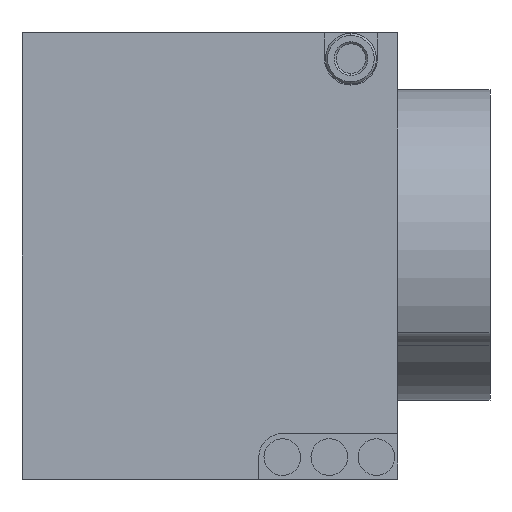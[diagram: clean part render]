
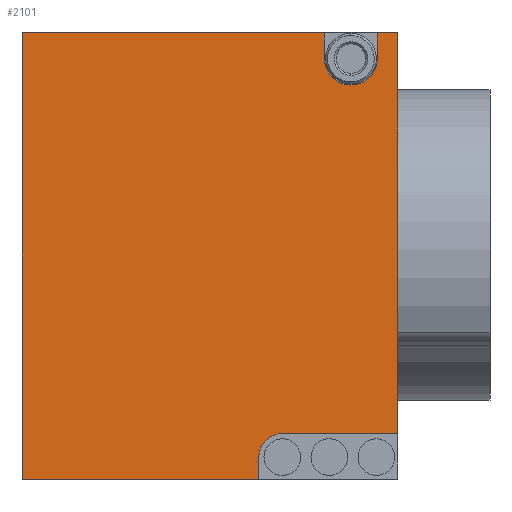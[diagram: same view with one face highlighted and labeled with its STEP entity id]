
A CAD part, left-side view. The second image highlights one B-rep face of the part: STEP entity #2101.
In plain terms, the highlighted planar face has unit normal (-1, 0, 0).
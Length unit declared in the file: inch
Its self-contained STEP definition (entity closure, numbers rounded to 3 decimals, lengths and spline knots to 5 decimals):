
#21 = VECTOR ( 'NONE', #6455, 39.37008 ) ;
#28 = EDGE_CURVE ( 'Defeatured_0_15+Defeatured_0_17+Defeatured_0_19+Defeatured_0_23', #1665, #5313, #79, .T. ) ;
#34 = EDGE_CURVE ( 'Defeatured_0_15+Defeatured_0_20+Defeatured_0_26+Defeatured_0_18', #571, #5899, #2781, .T. ) ;
#79 = LINE ( 'NONE', #1553, #5764 ) ;
#254 = DIRECTION ( 'NONE',  ( 0., -1., 0. ) ) ;
#466 = ORIENTED_EDGE ( 'NONE', *, *, #509, .F. ) ;
#486 = VERTEX_POINT ( 'NONE', #3553 ) ;
#507 = EDGE_CURVE ( 'Defeatured_0_23+Defeatured_0_15+Defeatured_0_25+Defeatured_0_17', #1852, #5313, #1189, .T. ) ;
#509 = EDGE_CURVE ( 'Defeatured_0_28+Defeatured_0_15+Defeatured_0_29+Defeatured_0_18', #6198, #1234, #1997, .T. ) ;
#571 = VERTEX_POINT ( 'NONE', #1167 ) ;
#576 = VECTOR ( 'NONE', #254, 39.37008 ) ;
#813 = VECTOR ( 'NONE', #6149, 39.37008 ) ;
#851 = ORIENTED_EDGE ( 'NONE', *, *, #4844, .F. ) ;
#1020 = ORIENTED_EDGE ( 'NONE', *, *, #6112, .F. ) ;
#1045 = CARTESIAN_POINT ( 'NONE',  ( -3.32357, -0.69786, -2.14 ) ) ;
#1131 = CARTESIAN_POINT ( 'NONE',  ( -3.32357, -1.95911, 2.375 ) ) ;
#1167 = CARTESIAN_POINT ( 'NONE',  ( -3.32357, -2.17786, -1.89 ) ) ;
#1189 = LINE ( 'NONE', #1045, #5759 ) ;
#1234 = VERTEX_POINT ( 'NONE', #1131 ) ;
#1238 = DIRECTION ( 'NONE',  ( -1., 0., 0. ) ) ;
#1296 = LINE ( 'NONE', #5890, #576 ) ;
#1379 = VECTOR ( 'NONE', #5024, 39.37008 ) ;
#1401 = CARTESIAN_POINT ( 'NONE',  ( -3.32357, -0.69786, -2.14 ) ) ;
#1405 = AXIS2_PLACEMENT_3D ( 'NONE', #2222, #1238, #6338 ) ;
#1426 = ORIENTED_EDGE ( 'NONE', *, *, #507, .F. ) ;
#1436 = DIRECTION ( 'NONE',  ( 0., -1., 0. ) ) ;
#1535 = DIRECTION ( 'NONE',  ( 0., 1., 0. ) ) ;
#1553 = CARTESIAN_POINT ( 'NONE',  ( -3.32357, 1.82214, -2.375 ) ) ;
#1625 = VERTEX_POINT ( 'NONE', #3428 ) ;
#1665 = VERTEX_POINT ( 'NONE', #6040 ) ;
#1706 = DIRECTION ( 'NONE',  ( 0., -1., 0. ) ) ;
#1799 = EDGE_CURVE ( 'Defeatured_0_29+Defeatured_0_15+Defeatured_0_30+Defeatured_0_28', #1625, #6198, #2022, .T. ) ;
#1852 = VERTEX_POINT ( 'NONE', #1401 ) ;
#1961 = ORIENTED_EDGE ( 'NONE', *, *, #3883, .F. ) ;
#1997 = LINE ( 'NONE', #5208, #2386 ) ;
#2022 = CIRCLE ( 'NONE', #1405, 0.28125 ) ;
#2069 = DIRECTION ( 'NONE',  ( -1., 0., 0. ) ) ;
#2101 = ADVANCED_FACE ( 'Defeatured_0_15', ( #4639 ), #4122, .T. ) ;
#2222 = CARTESIAN_POINT ( 'NONE',  ( -3.32357, -1.67786, 2.1 ) ) ;
#2386 = VECTOR ( 'NONE', #5633, 39.37008 ) ;
#2400 = LINE ( 'NONE', #6577, #3565 ) ;
#2551 = DIRECTION ( 'NONE',  ( 0., 0., -1. ) ) ;
#2557 = LINE ( 'NONE', #2856, #21 ) ;
#2566 = EDGE_CURVE ( 'Defeatured_0_25+Defeatured_0_15+Defeatured_0_26+Defeatured_0_23', #3473, #1852, #3007, .T. ) ;
#2568 = ORIENTED_EDGE ( 'NONE', *, *, #2566, .F. ) ;
#2781 = LINE ( 'NONE', #5108, #813 ) ;
#2856 = CARTESIAN_POINT ( 'NONE',  ( -3.32357, -1.39661, 2.1 ) ) ;
#2922 = VERTEX_POINT ( 'NONE', #3357 ) ;
#2974 = CARTESIAN_POINT ( 'NONE',  ( -3.32357, -0.94786, -2.14 ) ) ;
#3007 = CIRCLE ( 'NONE', #3247, 0.25 ) ;
#3057 = CARTESIAN_POINT ( 'NONE',  ( -3.32357, 1.82214, -2.375 ) ) ;
#3247 = AXIS2_PLACEMENT_3D ( 'NONE', #2974, #3928, #1436 ) ;
#3345 = CARTESIAN_POINT ( 'NONE',  ( -3.32357, -2.17786, 2.375 ) ) ;
#3357 = CARTESIAN_POINT ( 'NONE',  ( -3.32357, 1.82214, 2.375 ) ) ;
#3428 = CARTESIAN_POINT ( 'NONE',  ( -3.32357, -1.39661, 2.1 ) ) ;
#3473 = VERTEX_POINT ( 'NONE', #6129 ) ;
#3553 = CARTESIAN_POINT ( 'NONE',  ( -3.32357, -1.39661, 2.375 ) ) ;
#3565 = VECTOR ( 'NONE', #1535, 39.37008 ) ;
#3584 = ORIENTED_EDGE ( 'NONE', *, *, #34, .T. ) ;
#3661 = CARTESIAN_POINT ( 'NONE',  ( -3.32357, -0.69786, -2.375 ) ) ;
#3883 = EDGE_CURVE ( 'Defeatured_0_18+Defeatured_0_15+Defeatured_0_28+Defeatured_0_20', #1234, #5899, #1296, .T. ) ;
#3888 = LINE ( 'NONE', #6278, #4387 ) ;
#3928 = DIRECTION ( 'NONE',  ( -1., 0., 0. ) ) ;
#3935 = EDGE_CURVE ( 'Defeatured_0_19+Defeatured_0_15+Defeatured_0_17+Defeatured_0_18', #1665, #2922, #3982, .T. ) ;
#3982 = LINE ( 'NONE', #4461, #1379 ) ;
#4122 = PLANE ( 'NONE',  #5150 ) ;
#4387 = VECTOR ( 'NONE', #1706, 39.37008 ) ;
#4439 = ORIENTED_EDGE ( 'NONE', *, *, #3935, .F. ) ;
#4461 = CARTESIAN_POINT ( 'NONE',  ( -3.32357, 1.82214, -2.375 ) ) ;
#4639 = FACE_OUTER_BOUND ( 'NONE', #6608, .T. ) ;
#4657 = DIRECTION ( 'NONE',  ( 0., -1., 0. ) ) ;
#4844 = EDGE_CURVE ( 'Defeatured_0_26+Defeatured_0_15+Defeatured_0_20+Defeatured_0_25', #571, #3473, #2400, .T. ) ;
#4948 = ORIENTED_EDGE ( 'NONE', *, *, #5035, .F. ) ;
#4987 = ORIENTED_EDGE ( 'NONE', *, *, #28, .T. ) ;
#5024 = DIRECTION ( 'NONE',  ( 0., 0., 1. ) ) ;
#5035 = EDGE_CURVE ( 'Defeatured_0_18+Defeatured_0_15+Defeatured_0_19+Defeatured_0_30', #2922, #486, #3888, .T. ) ;
#5108 = CARTESIAN_POINT ( 'NONE',  ( -3.32357, -2.17786, -2.375 ) ) ;
#5150 = AXIS2_PLACEMENT_3D ( 'NONE', #3057, #2069, #4657 ) ;
#5208 = CARTESIAN_POINT ( 'NONE',  ( -3.32357, -1.95911, 2.1 ) ) ;
#5313 = VERTEX_POINT ( 'NONE', #3661 ) ;
#5633 = DIRECTION ( 'NONE',  ( 0., 0., 1. ) ) ;
#5641 = DIRECTION ( 'NONE',  ( 0., -1., 0. ) ) ;
#5759 = VECTOR ( 'NONE', #2551, 39.37008 ) ;
#5764 = VECTOR ( 'NONE', #5641, 39.37008 ) ;
#5890 = CARTESIAN_POINT ( 'NONE',  ( -3.32357, 1.82214, 2.375 ) ) ;
#5899 = VERTEX_POINT ( 'NONE', #3345 ) ;
#5902 = CARTESIAN_POINT ( 'NONE',  ( -3.32357, -1.95911, 2.1 ) ) ;
#6040 = CARTESIAN_POINT ( 'NONE',  ( -3.32357, 1.82214, -2.375 ) ) ;
#6112 = EDGE_CURVE ( 'Defeatured_0_30+Defeatured_0_15+Defeatured_0_18+Defeatured_0_29', #486, #1625, #2557, .T. ) ;
#6129 = CARTESIAN_POINT ( 'NONE',  ( -3.32357, -0.94786, -1.89 ) ) ;
#6149 = DIRECTION ( 'NONE',  ( 0., 0., 1. ) ) ;
#6198 = VERTEX_POINT ( 'NONE', #5902 ) ;
#6278 = CARTESIAN_POINT ( 'NONE',  ( -3.32357, 1.82214, 2.375 ) ) ;
#6338 = DIRECTION ( 'NONE',  ( 0., -1., 0. ) ) ;
#6455 = DIRECTION ( 'NONE',  ( 0., 0., -1. ) ) ;
#6466 = ORIENTED_EDGE ( 'NONE', *, *, #1799, .F. ) ;
#6577 = CARTESIAN_POINT ( 'NONE',  ( -3.32357, -0.94786, -1.89 ) ) ;
#6608 = EDGE_LOOP ( 'NONE', ( #466, #6466, #1020, #4948, #4439, #4987, #1426, #2568, #851, #3584, #1961 ) ) ;
